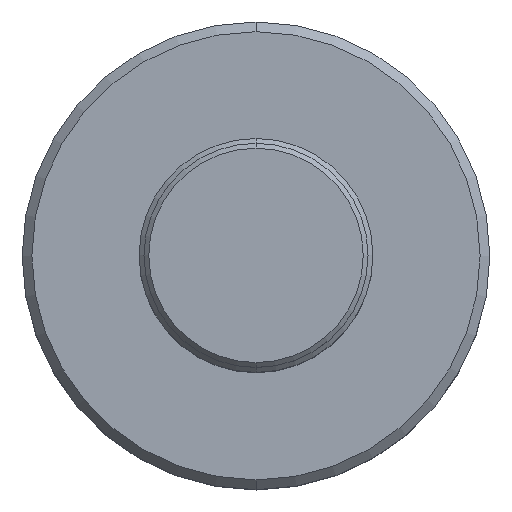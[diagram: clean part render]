
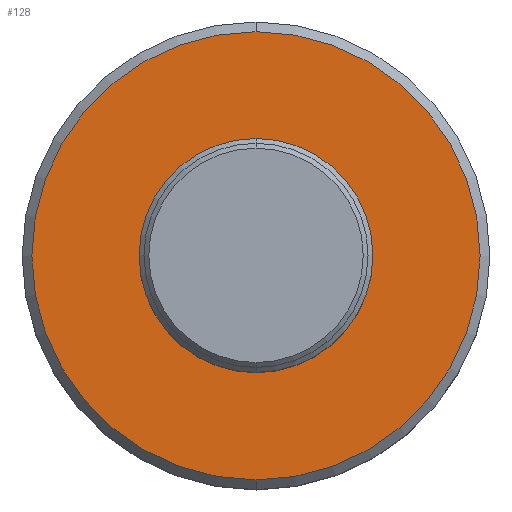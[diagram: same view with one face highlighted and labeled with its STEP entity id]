
A CAD part, top view. The second image highlights one B-rep face of the part: STEP entity #128.
In plain terms, the highlighted planar face has unit normal (0, 0, 1).
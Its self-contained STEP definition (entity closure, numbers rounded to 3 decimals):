
#54=FACE_BOUND('',#232,.F.);
#62=PLANE('',#880);
#128=ADVANCED_FACE('',(#54,#180),#62,.T.);
#180=FACE_OUTER_BOUND('',#233,.F.);
#232=EDGE_LOOP('',(#387,#388));
#233=EDGE_LOOP('',(#389,#390));
#387=ORIENTED_EDGE('',*,*,#647,.T.);
#388=ORIENTED_EDGE('',*,*,#574,.T.);
#389=ORIENTED_EDGE('',*,*,#648,.F.);
#390=ORIENTED_EDGE('',*,*,#575,.F.);
#574=EDGE_CURVE('',#764,#763,#676,.T.);
#575=EDGE_CURVE('',#762,#761,#677,.T.);
#647=EDGE_CURVE('',#763,#764,#707,.T.);
#648=EDGE_CURVE('',#761,#762,#708,.T.);
#676=CIRCLE('',#797,5.75);
#677=CIRCLE('',#798,11.5);
#707=CIRCLE('',#828,5.75);
#708=CIRCLE('',#829,11.5);
#761=VERTEX_POINT('',#1206);
#762=VERTEX_POINT('',#1207);
#763=VERTEX_POINT('',#1208);
#764=VERTEX_POINT('',#1209);
#797=AXIS2_PLACEMENT_3D('',#1240,#922,#923);
#798=AXIS2_PLACEMENT_3D('',#1241,#924,#925);
#828=AXIS2_PLACEMENT_3D('',#1313,#1026,#1027);
#829=AXIS2_PLACEMENT_3D('',#1314,#1028,#1029);
#880=AXIS2_PLACEMENT_3D('',#1365,#1130,#1131);
#922=DIRECTION('',(0.,0.,1.));
#923=DIRECTION('',(0.,1.,0.));
#924=DIRECTION('',(0.,0.,1.));
#925=DIRECTION('',(0.,1.,0.));
#1026=DIRECTION('',(0.,0.,1.));
#1027=DIRECTION('',(0.,-1.,0.));
#1028=DIRECTION('',(0.,0.,1.));
#1029=DIRECTION('',(0.,-1.,0.));
#1130=DIRECTION('',(0.,0.,1.));
#1131=DIRECTION('',(-1.,0.,0.));
#1206=CARTESIAN_POINT('',(-100.,38.5,-25.2));
#1207=CARTESIAN_POINT('',(-100.,61.5,-25.2));
#1208=CARTESIAN_POINT('',(-100.,44.25,-25.2));
#1209=CARTESIAN_POINT('',(-100.,55.75,-25.2));
#1240=CARTESIAN_POINT('',(-100.,50.,-25.2));
#1241=CARTESIAN_POINT('',(-100.,50.,-25.2));
#1313=CARTESIAN_POINT('',(-100.,50.,-25.2));
#1314=CARTESIAN_POINT('',(-100.,50.,-25.2));
#1365=CARTESIAN_POINT('',(-88.27,61.73,-25.2));
